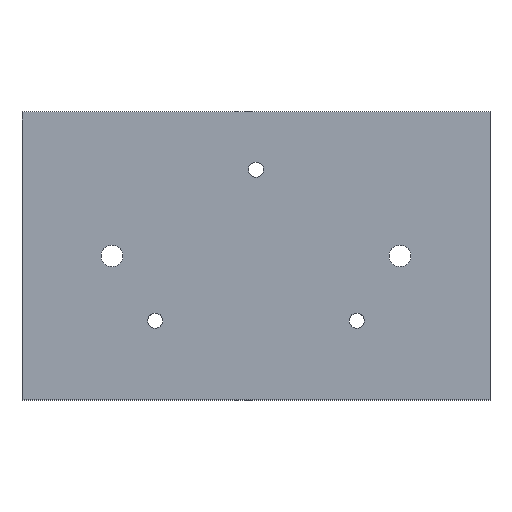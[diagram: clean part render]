
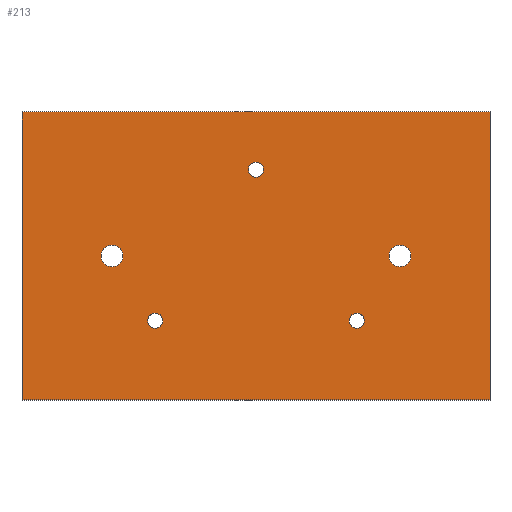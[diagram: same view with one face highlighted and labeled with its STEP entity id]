
A CAD part, top view. The second image highlights one B-rep face of the part: STEP entity #213.
In plain terms, the highlighted planar face has unit normal (0, 0, 1).
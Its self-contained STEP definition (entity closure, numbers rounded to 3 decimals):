
#24 = VERTEX_POINT('',#25);
#25 = CARTESIAN_POINT('',(-65.,-40.,24.));
#32 = PLANE('',#33);
#33 = AXIS2_PLACEMENT_3D('',#34,#35,#36);
#34 = CARTESIAN_POINT('',(-65.,-40.,16.));
#35 = DIRECTION('',(1.,0.,0.));
#36 = DIRECTION('',(0.,0.,1.));
#44 = PLANE('',#45);
#45 = AXIS2_PLACEMENT_3D('',#46,#47,#48);
#46 = CARTESIAN_POINT('',(-65.,-40.,16.));
#47 = DIRECTION('',(0.,1.,0.));
#48 = DIRECTION('',(0.,0.,1.));
#85 = VERTEX_POINT('',#86);
#86 = CARTESIAN_POINT('',(-65.,40.,24.));
#100 = PLANE('',#101);
#101 = AXIS2_PLACEMENT_3D('',#102,#103,#104);
#102 = CARTESIAN_POINT('',(-65.,40.,16.));
#103 = DIRECTION('',(0.,1.,0.));
#104 = DIRECTION('',(0.,0.,1.));
#112 = EDGE_CURVE('',#24,#85,#113,.T.);
#113 = SURFACE_CURVE('',#114,(#118,#125),.PCURVE_S1.);
#114 = LINE('',#115,#116);
#115 = CARTESIAN_POINT('',(-65.,-40.,24.));
#116 = VECTOR('',#117,1.);
#117 = DIRECTION('',(0.,1.,0.));
#118 = PCURVE('',#32,#119);
#119 = DEFINITIONAL_REPRESENTATION('',(#120),#124);
#120 = LINE('',#121,#122);
#121 = CARTESIAN_POINT('',(8.,0.));
#122 = VECTOR('',#123,1.);
#123 = DIRECTION('',(0.,-1.));
#124 = ( GEOMETRIC_REPRESENTATION_CONTEXT(2) 
PARAMETRIC_REPRESENTATION_CONTEXT() REPRESENTATION_CONTEXT('2D SPACE',''
  ) );
#125 = PCURVE('',#126,#131);
#126 = PLANE('',#127);
#127 = AXIS2_PLACEMENT_3D('',#128,#129,#130);
#128 = CARTESIAN_POINT('',(-65.,-40.,24.));
#129 = DIRECTION('',(0.,0.,1.));
#130 = DIRECTION('',(1.,0.,0.));
#131 = DEFINITIONAL_REPRESENTATION('',(#132),#136);
#132 = LINE('',#133,#134);
#133 = CARTESIAN_POINT('',(0.,0.));
#134 = VECTOR('',#135,1.);
#135 = DIRECTION('',(0.,1.));
#136 = ( GEOMETRIC_REPRESENTATION_CONTEXT(2) 
PARAMETRIC_REPRESENTATION_CONTEXT() REPRESENTATION_CONTEXT('2D SPACE',''
  ) );
#165 = EDGE_CURVE('',#24,#166,#168,.T.);
#166 = VERTEX_POINT('',#167);
#167 = CARTESIAN_POINT('',(65.,-40.,24.));
#168 = SURFACE_CURVE('',#169,(#173,#180),.PCURVE_S1.);
#169 = LINE('',#170,#171);
#170 = CARTESIAN_POINT('',(-65.,-40.,24.));
#171 = VECTOR('',#172,1.);
#172 = DIRECTION('',(1.,0.,0.));
#173 = PCURVE('',#44,#174);
#174 = DEFINITIONAL_REPRESENTATION('',(#175),#179);
#175 = LINE('',#176,#177);
#176 = CARTESIAN_POINT('',(8.,0.));
#177 = VECTOR('',#178,1.);
#178 = DIRECTION('',(0.,1.));
#179 = ( GEOMETRIC_REPRESENTATION_CONTEXT(2) 
PARAMETRIC_REPRESENTATION_CONTEXT() REPRESENTATION_CONTEXT('2D SPACE',''
  ) );
#180 = PCURVE('',#126,#181);
#181 = DEFINITIONAL_REPRESENTATION('',(#182),#186);
#182 = LINE('',#183,#184);
#183 = CARTESIAN_POINT('',(0.,0.));
#184 = VECTOR('',#185,1.);
#185 = DIRECTION('',(1.,0.));
#186 = ( GEOMETRIC_REPRESENTATION_CONTEXT(2) 
PARAMETRIC_REPRESENTATION_CONTEXT() REPRESENTATION_CONTEXT('2D SPACE',''
  ) );
#202 = PLANE('',#203);
#203 = AXIS2_PLACEMENT_3D('',#204,#205,#206);
#204 = CARTESIAN_POINT('',(65.,-40.,16.));
#205 = DIRECTION('',(1.,0.,0.));
#206 = DIRECTION('',(0.,0.,1.));
#213 = ADVANCED_FACE('',(#214,#262,#293,#324,#355,#386),#126,.T.);
#214 = FACE_BOUND('',#215,.T.);
#215 = EDGE_LOOP('',(#216,#217,#218,#241));
#216 = ORIENTED_EDGE('',*,*,#112,.F.);
#217 = ORIENTED_EDGE('',*,*,#165,.T.);
#218 = ORIENTED_EDGE('',*,*,#219,.T.);
#219 = EDGE_CURVE('',#166,#220,#222,.T.);
#220 = VERTEX_POINT('',#221);
#221 = CARTESIAN_POINT('',(65.,40.,24.));
#222 = SURFACE_CURVE('',#223,(#227,#234),.PCURVE_S1.);
#223 = LINE('',#224,#225);
#224 = CARTESIAN_POINT('',(65.,-40.,24.));
#225 = VECTOR('',#226,1.);
#226 = DIRECTION('',(0.,1.,0.));
#227 = PCURVE('',#126,#228);
#228 = DEFINITIONAL_REPRESENTATION('',(#229),#233);
#229 = LINE('',#230,#231);
#230 = CARTESIAN_POINT('',(130.,0.));
#231 = VECTOR('',#232,1.);
#232 = DIRECTION('',(0.,1.));
#233 = ( GEOMETRIC_REPRESENTATION_CONTEXT(2) 
PARAMETRIC_REPRESENTATION_CONTEXT() REPRESENTATION_CONTEXT('2D SPACE',''
  ) );
#234 = PCURVE('',#202,#235);
#235 = DEFINITIONAL_REPRESENTATION('',(#236),#240);
#236 = LINE('',#237,#238);
#237 = CARTESIAN_POINT('',(8.,0.));
#238 = VECTOR('',#239,1.);
#239 = DIRECTION('',(0.,-1.));
#240 = ( GEOMETRIC_REPRESENTATION_CONTEXT(2) 
PARAMETRIC_REPRESENTATION_CONTEXT() REPRESENTATION_CONTEXT('2D SPACE',''
  ) );
#241 = ORIENTED_EDGE('',*,*,#242,.F.);
#242 = EDGE_CURVE('',#85,#220,#243,.T.);
#243 = SURFACE_CURVE('',#244,(#248,#255),.PCURVE_S1.);
#244 = LINE('',#245,#246);
#245 = CARTESIAN_POINT('',(-65.,40.,24.));
#246 = VECTOR('',#247,1.);
#247 = DIRECTION('',(1.,0.,0.));
#248 = PCURVE('',#126,#249);
#249 = DEFINITIONAL_REPRESENTATION('',(#250),#254);
#250 = LINE('',#251,#252);
#251 = CARTESIAN_POINT('',(0.,80.));
#252 = VECTOR('',#253,1.);
#253 = DIRECTION('',(1.,0.));
#254 = ( GEOMETRIC_REPRESENTATION_CONTEXT(2) 
PARAMETRIC_REPRESENTATION_CONTEXT() REPRESENTATION_CONTEXT('2D SPACE',''
  ) );
#255 = PCURVE('',#100,#256);
#256 = DEFINITIONAL_REPRESENTATION('',(#257),#261);
#257 = LINE('',#258,#259);
#258 = CARTESIAN_POINT('',(8.,0.));
#259 = VECTOR('',#260,1.);
#260 = DIRECTION('',(0.,1.));
#261 = ( GEOMETRIC_REPRESENTATION_CONTEXT(2) 
PARAMETRIC_REPRESENTATION_CONTEXT() REPRESENTATION_CONTEXT('2D SPACE',''
  ) );
#262 = FACE_BOUND('',#263,.T.);
#263 = EDGE_LOOP('',(#264));
#264 = ORIENTED_EDGE('',*,*,#265,.F.);
#265 = EDGE_CURVE('',#266,#266,#268,.T.);
#266 = VERTEX_POINT('',#267);
#267 = CARTESIAN_POINT('',(-25.9,-18.,24.));
#268 = SURFACE_CURVE('',#269,(#274,#281),.PCURVE_S1.);
#269 = CIRCLE('',#270,2.1);
#270 = AXIS2_PLACEMENT_3D('',#271,#272,#273);
#271 = CARTESIAN_POINT('',(-28.,-18.,24.));
#272 = DIRECTION('',(0.,0.,1.));
#273 = DIRECTION('',(1.,0.,0.));
#274 = PCURVE('',#126,#275);
#275 = DEFINITIONAL_REPRESENTATION('',(#276),#280);
#276 = CIRCLE('',#277,2.1);
#277 = AXIS2_PLACEMENT_2D('',#278,#279);
#278 = CARTESIAN_POINT('',(37.,22.));
#279 = DIRECTION('',(1.,0.));
#280 = ( GEOMETRIC_REPRESENTATION_CONTEXT(2) 
PARAMETRIC_REPRESENTATION_CONTEXT() REPRESENTATION_CONTEXT('2D SPACE',''
  ) );
#281 = PCURVE('',#282,#287);
#282 = CYLINDRICAL_SURFACE('',#283,2.1);
#283 = AXIS2_PLACEMENT_3D('',#284,#285,#286);
#284 = CARTESIAN_POINT('',(-28.,-18.,16.));
#285 = DIRECTION('',(-0.,-0.,-1.));
#286 = DIRECTION('',(1.,0.,0.));
#287 = DEFINITIONAL_REPRESENTATION('',(#288),#292);
#288 = LINE('',#289,#290);
#289 = CARTESIAN_POINT('',(-0.,-8.));
#290 = VECTOR('',#291,1.);
#291 = DIRECTION('',(-1.,0.));
#292 = ( GEOMETRIC_REPRESENTATION_CONTEXT(2) 
PARAMETRIC_REPRESENTATION_CONTEXT() REPRESENTATION_CONTEXT('2D SPACE',''
  ) );
#293 = FACE_BOUND('',#294,.T.);
#294 = EDGE_LOOP('',(#295));
#295 = ORIENTED_EDGE('',*,*,#296,.F.);
#296 = EDGE_CURVE('',#297,#297,#299,.T.);
#297 = VERTEX_POINT('',#298);
#298 = CARTESIAN_POINT('',(-36.985,0.,24.));
#299 = SURFACE_CURVE('',#300,(#305,#312),.PCURVE_S1.);
#300 = CIRCLE('',#301,3.015);
#301 = AXIS2_PLACEMENT_3D('',#302,#303,#304);
#302 = CARTESIAN_POINT('',(-40.,0.,24.));
#303 = DIRECTION('',(0.,0.,1.));
#304 = DIRECTION('',(1.,0.,0.));
#305 = PCURVE('',#126,#306);
#306 = DEFINITIONAL_REPRESENTATION('',(#307),#311);
#307 = CIRCLE('',#308,3.015);
#308 = AXIS2_PLACEMENT_2D('',#309,#310);
#309 = CARTESIAN_POINT('',(25.,40.));
#310 = DIRECTION('',(1.,0.));
#311 = ( GEOMETRIC_REPRESENTATION_CONTEXT(2) 
PARAMETRIC_REPRESENTATION_CONTEXT() REPRESENTATION_CONTEXT('2D SPACE',''
  ) );
#312 = PCURVE('',#313,#318);
#313 = CYLINDRICAL_SURFACE('',#314,3.015);
#314 = AXIS2_PLACEMENT_3D('',#315,#316,#317);
#315 = CARTESIAN_POINT('',(-40.,0.,16.));
#316 = DIRECTION('',(-0.,-0.,-1.));
#317 = DIRECTION('',(1.,0.,0.));
#318 = DEFINITIONAL_REPRESENTATION('',(#319),#323);
#319 = LINE('',#320,#321);
#320 = CARTESIAN_POINT('',(-0.,-8.));
#321 = VECTOR('',#322,1.);
#322 = DIRECTION('',(-1.,0.));
#323 = ( GEOMETRIC_REPRESENTATION_CONTEXT(2) 
PARAMETRIC_REPRESENTATION_CONTEXT() REPRESENTATION_CONTEXT('2D SPACE',''
  ) );
#324 = FACE_BOUND('',#325,.T.);
#325 = EDGE_LOOP('',(#326));
#326 = ORIENTED_EDGE('',*,*,#327,.F.);
#327 = EDGE_CURVE('',#328,#328,#330,.T.);
#328 = VERTEX_POINT('',#329);
#329 = CARTESIAN_POINT('',(30.1,-18.,24.));
#330 = SURFACE_CURVE('',#331,(#336,#343),.PCURVE_S1.);
#331 = CIRCLE('',#332,2.1);
#332 = AXIS2_PLACEMENT_3D('',#333,#334,#335);
#333 = CARTESIAN_POINT('',(28.,-18.,24.));
#334 = DIRECTION('',(0.,0.,1.));
#335 = DIRECTION('',(1.,0.,0.));
#336 = PCURVE('',#126,#337);
#337 = DEFINITIONAL_REPRESENTATION('',(#338),#342);
#338 = CIRCLE('',#339,2.1);
#339 = AXIS2_PLACEMENT_2D('',#340,#341);
#340 = CARTESIAN_POINT('',(93.,22.));
#341 = DIRECTION('',(1.,0.));
#342 = ( GEOMETRIC_REPRESENTATION_CONTEXT(2) 
PARAMETRIC_REPRESENTATION_CONTEXT() REPRESENTATION_CONTEXT('2D SPACE',''
  ) );
#343 = PCURVE('',#344,#349);
#344 = CYLINDRICAL_SURFACE('',#345,2.1);
#345 = AXIS2_PLACEMENT_3D('',#346,#347,#348);
#346 = CARTESIAN_POINT('',(28.,-18.,16.));
#347 = DIRECTION('',(-0.,-0.,-1.));
#348 = DIRECTION('',(1.,0.,0.));
#349 = DEFINITIONAL_REPRESENTATION('',(#350),#354);
#350 = LINE('',#351,#352);
#351 = CARTESIAN_POINT('',(-0.,-8.));
#352 = VECTOR('',#353,1.);
#353 = DIRECTION('',(-1.,0.));
#354 = ( GEOMETRIC_REPRESENTATION_CONTEXT(2) 
PARAMETRIC_REPRESENTATION_CONTEXT() REPRESENTATION_CONTEXT('2D SPACE',''
  ) );
#355 = FACE_BOUND('',#356,.T.);
#356 = EDGE_LOOP('',(#357));
#357 = ORIENTED_EDGE('',*,*,#358,.F.);
#358 = EDGE_CURVE('',#359,#359,#361,.T.);
#359 = VERTEX_POINT('',#360);
#360 = CARTESIAN_POINT('',(43.015,0.,24.));
#361 = SURFACE_CURVE('',#362,(#367,#374),.PCURVE_S1.);
#362 = CIRCLE('',#363,3.015);
#363 = AXIS2_PLACEMENT_3D('',#364,#365,#366);
#364 = CARTESIAN_POINT('',(40.,0.,24.));
#365 = DIRECTION('',(0.,0.,1.));
#366 = DIRECTION('',(1.,0.,0.));
#367 = PCURVE('',#126,#368);
#368 = DEFINITIONAL_REPRESENTATION('',(#369),#373);
#369 = CIRCLE('',#370,3.015);
#370 = AXIS2_PLACEMENT_2D('',#371,#372);
#371 = CARTESIAN_POINT('',(105.,40.));
#372 = DIRECTION('',(1.,0.));
#373 = ( GEOMETRIC_REPRESENTATION_CONTEXT(2) 
PARAMETRIC_REPRESENTATION_CONTEXT() REPRESENTATION_CONTEXT('2D SPACE',''
  ) );
#374 = PCURVE('',#375,#380);
#375 = CYLINDRICAL_SURFACE('',#376,3.015);
#376 = AXIS2_PLACEMENT_3D('',#377,#378,#379);
#377 = CARTESIAN_POINT('',(40.,0.,16.));
#378 = DIRECTION('',(-0.,-0.,-1.));
#379 = DIRECTION('',(1.,0.,0.));
#380 = DEFINITIONAL_REPRESENTATION('',(#381),#385);
#381 = LINE('',#382,#383);
#382 = CARTESIAN_POINT('',(-0.,-8.));
#383 = VECTOR('',#384,1.);
#384 = DIRECTION('',(-1.,0.));
#385 = ( GEOMETRIC_REPRESENTATION_CONTEXT(2) 
PARAMETRIC_REPRESENTATION_CONTEXT() REPRESENTATION_CONTEXT('2D SPACE',''
  ) );
#386 = FACE_BOUND('',#387,.T.);
#387 = EDGE_LOOP('',(#388));
#388 = ORIENTED_EDGE('',*,*,#389,.F.);
#389 = EDGE_CURVE('',#390,#390,#392,.T.);
#390 = VERTEX_POINT('',#391);
#391 = CARTESIAN_POINT('',(2.1,24.,24.));
#392 = SURFACE_CURVE('',#393,(#398,#405),.PCURVE_S1.);
#393 = CIRCLE('',#394,2.1);
#394 = AXIS2_PLACEMENT_3D('',#395,#396,#397);
#395 = CARTESIAN_POINT('',(0.,24.,24.));
#396 = DIRECTION('',(0.,0.,1.));
#397 = DIRECTION('',(1.,0.,0.));
#398 = PCURVE('',#126,#399);
#399 = DEFINITIONAL_REPRESENTATION('',(#400),#404);
#400 = CIRCLE('',#401,2.1);
#401 = AXIS2_PLACEMENT_2D('',#402,#403);
#402 = CARTESIAN_POINT('',(65.,64.));
#403 = DIRECTION('',(1.,0.));
#404 = ( GEOMETRIC_REPRESENTATION_CONTEXT(2) 
PARAMETRIC_REPRESENTATION_CONTEXT() REPRESENTATION_CONTEXT('2D SPACE',''
  ) );
#405 = PCURVE('',#406,#411);
#406 = CYLINDRICAL_SURFACE('',#407,2.1);
#407 = AXIS2_PLACEMENT_3D('',#408,#409,#410);
#408 = CARTESIAN_POINT('',(0.,24.,16.));
#409 = DIRECTION('',(-0.,-0.,-1.));
#410 = DIRECTION('',(1.,0.,0.));
#411 = DEFINITIONAL_REPRESENTATION('',(#412),#416);
#412 = LINE('',#413,#414);
#413 = CARTESIAN_POINT('',(-0.,-8.));
#414 = VECTOR('',#415,1.);
#415 = DIRECTION('',(-1.,0.));
#416 = ( GEOMETRIC_REPRESENTATION_CONTEXT(2) 
PARAMETRIC_REPRESENTATION_CONTEXT() REPRESENTATION_CONTEXT('2D SPACE',''
  ) );
